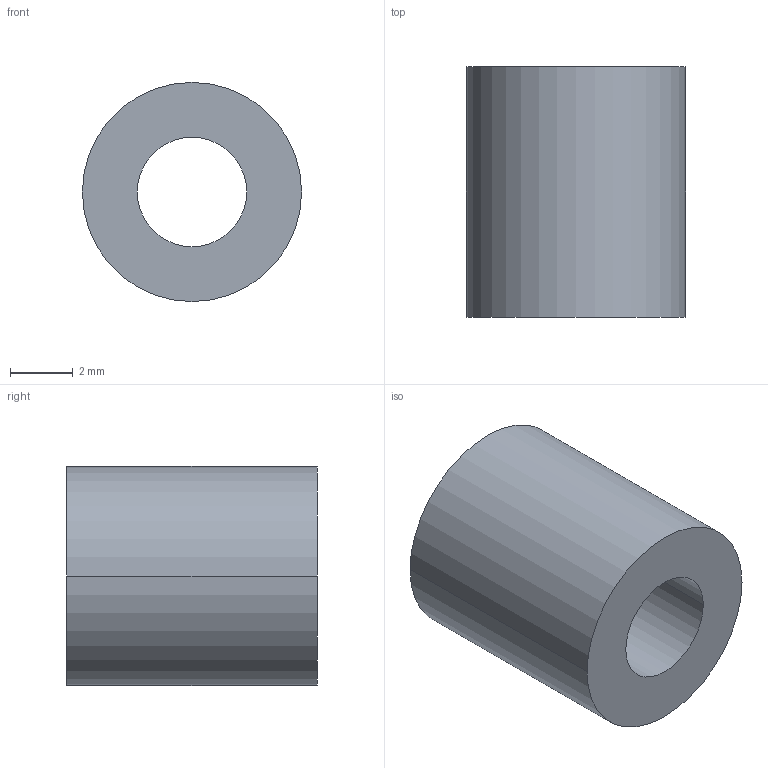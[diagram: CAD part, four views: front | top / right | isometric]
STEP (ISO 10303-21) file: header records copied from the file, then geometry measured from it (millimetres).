
FILE_DESCRIPTION (( 'STEP AP203' ), '1' );
FILE_NAME ('30800.WPP7B3.5.step', '2019-01-23T22:19:08', ( '' ), ( '' ), 'SwSTEP 2.0', 'SolidWorks 2017', '' );
FILE_SCHEMA (( 'CONFIG_CONTROL_DESIGN' ));
Length unit declared in the file: millimetre
Products named in the file (1): 30800.WPP7B3.5
Bounding box: 7 x 8 x 7 mm (x, y, z)
Volume: 228.2 mm3; surface area: 317.3 mm2
Topology: 1 solids, 1 shells, 8 faces, 16 edges, 10 vertices
Faces by surface type: cylinder 4, torus 2, plane 2
Entity records: 297 total; most frequent: DIRECTION 46, CARTESIAN_POINT 35, ORIENTED_EDGE 32, AXIS2_PLACEMENT_3D 21, EDGE_CURVE 16, CIRCLE 12, VERTEX_POINT 10, EDGE_LOOP 10
